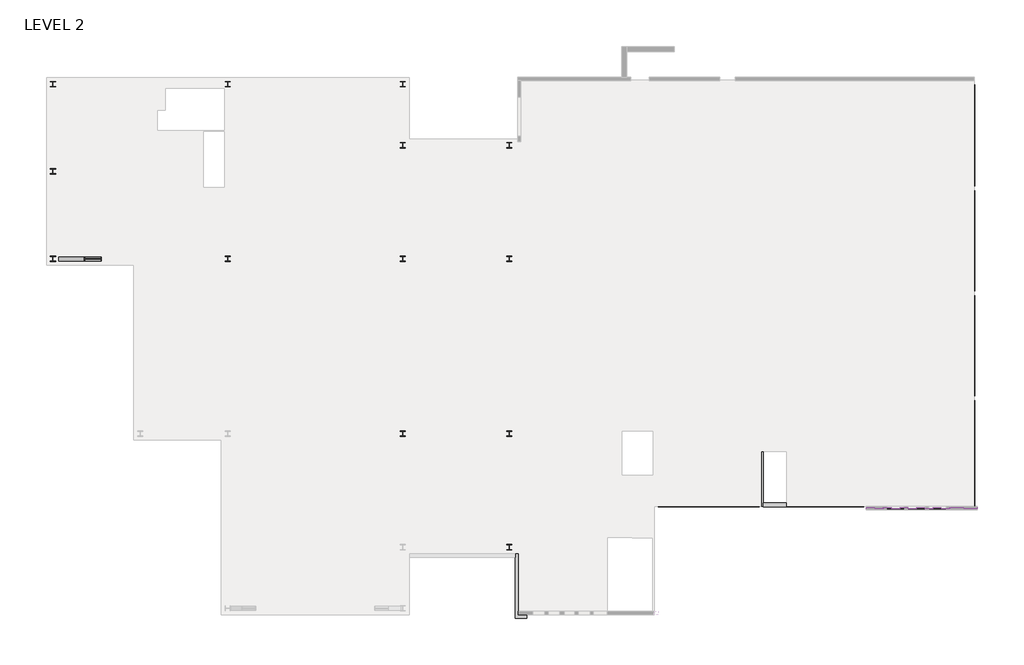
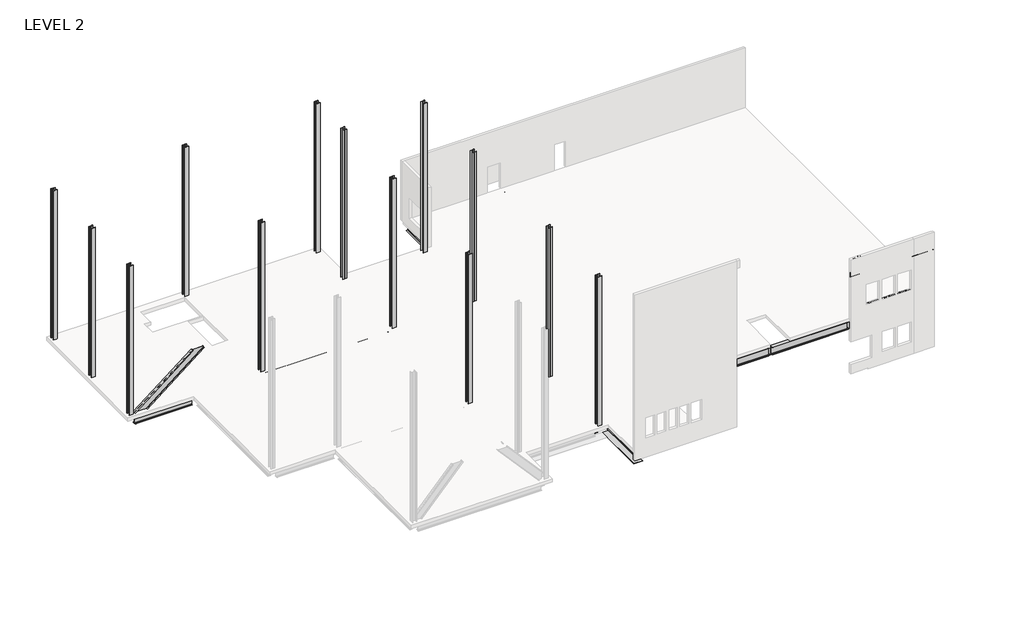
# One storey, part 2 of 2: 61 beams, 13 columns, 11 proxies.
"""IFC4 building model written with IfcOpenShell, lengths in millimetres."""

from ifc_helpers import new_model, si_unit, frame, origin, place, context, project, spatial, polyline, circle_curve, ellipse_curve, transform, mapped, element, save
from ifc_brep_helpers import plane_surface, revolved_surface, advanced_brep
from components import beams_w_wide_flange_w21x50_bdfe6965, l_angle_l6x4x1_2_f9bd59cc, beam_f273ec72, w_wide_flange_w24x68_78b43be5, w_wide_flange_w24x68_9b49338e, w_wide_flange_w24x68_f334fff9, w_wide_flange_w24x68_22df418c, w_wide_flange_w24x68_4a461c08, w_wide_flange_w24x68_5163ce4e, w_wide_flange_w24x68_d8fbc3e3, w_wide_flange_w24x68_f2fd009a, w_wide_flange_w24x68_bc0ab347, w_wide_flange_w24x68_358f6d4c, w_wide_flange_w24x68_59e872bf, w_wide_flange_w24x68_577b7746, w_wide_flange_w24x68_925eba65, w_wide_flange_w24x68_1f356fc1, w_wide_flange_w24x68_4326577b, w_wide_flange_w24x68_2037567b, w_wide_flange_w24x68_76057f53, w_wide_flange_w24x68_27c3fe05, w_wide_flange_w24x68_69e55ce7, w_wide_flange_w24x68_a7e4539d, w_wide_flange_w24x68_fb0ecac3, w_wide_flange_w24x68_2c67142f, w_wide_flange_w24x68_792546f8, w_wide_flange_w24x68_eee0bb9b, w_wide_flange_w24x68_46376fb1, generic_models_cae1357b, generic_models_13990884, generic_models_982b0e00, generic_models_3984bc5b, generic_models_8dd5a6fb, w_wide_flange_column_w12x65_dc519e1b

model = new_model("IFC4")

# Units and contexts
model_context = context("Model", 3, world=origin())
ifc_project = project(units=[si_unit("LENGTHUNIT", "METRE", prefix="MILLI")], contexts=[model_context])

# Site, building, storey
site = spatial("IfcSite", under=ifc_project)
building = spatial("IfcBuilding", under=site)
storey = spatial("IfcBuildingStorey", under=building, Name="LEVEL 2", Elevation=4267.2)

# Beams
placement = place(None, origin())
beams_w_wide_flange_w21x50_shape = beams_w_wide_flange_w21x50_bdfe6965(model_context)
element("IfcBeam", 1, ObjectType="Beams_W-Wide Flange : W21X50", at=placement, inside=storey, context=model_context, shape_type="MappedRepresentation", body=[
    mapped(beams_w_wide_flange_w21x50_shape, transform((8608.9507265, -13240.7476182, 3723.878125), x_axis=(0.0, 1.0, 0.0), y_axis=(-1.0, 0.0, 0.0), z_axis=(0.0, 0.0, 1.0))),
])
l_angle_l6x4x1_2_shape = l_angle_l6x4x1_2_f9bd59cc(model_context)
element("IfcBeam", 2, ObjectType="L-Angle : L6X4X1/2", at=placement, inside=storey, context=model_context, shape_type="MappedRepresentation", body=[
    mapped(l_angle_l6x4x1_2_shape, transform((34002.6007265, -10406.7624619, 3335.5160937), x_axis=(-1.0, 0.0, 0.0), y_axis=(0.0, -1.0, 0.0), z_axis=(0.0, 0.0, 1.0))),
])
element("IfcBeam", 3, ObjectType="L-Angle : L6X4X1/2", at=placement, inside=storey, context=model_context, shape_type="MappedRepresentation", body=[
    mapped(l_angle_l6x4x1_2_shape, transform((32773.8757265, -10406.7624619, 3335.5160937), x_axis=(-1.0, 0.0, 0.0), y_axis=(0.0, -1.0, 0.0), z_axis=(0.0, 0.0, 1.0))),
])
element("IfcBeam", 4, ObjectType="L-Angle : L6X4X1/2", at=placement, inside=storey, context=model_context, shape_type="MappedRepresentation", body=[
    mapped(l_angle_l6x4x1_2_shape, transform((31554.6757265, -10406.7624619, 3335.5160937), x_axis=(-1.0, 0.0, 0.0), y_axis=(0.0, -1.0, 0.0), z_axis=(0.0, 0.0, 1.0))),
])
element("IfcBeam", 5, ObjectType="L-Angle : L6X4X1/2", at=placement, inside=storey, context=model_context, shape_type="MappedRepresentation", body=[
    mapped(l_angle_l6x4x1_2_shape, transform((30335.4757265, -10406.7624619, 3335.5160937), x_axis=(-1.0, 0.0, 0.0), y_axis=(0.0, -1.0, 0.0), z_axis=(0.0, 0.0, 1.0))),
])
element("IfcBeam", 6, ObjectType="L-Angle : L6X4X1/2", at=placement, inside=storey, context=model_context, shape_type="MappedRepresentation", body=[
    mapped(l_angle_l6x4x1_2_shape, transform((29116.2757265, -10406.7624619, 3335.5160937), x_axis=(-1.0, 0.0, 0.0), y_axis=(0.0, -1.0, 0.0), z_axis=(0.0, 0.0, 1.0))),
])
beam_shape = beam_f273ec72(model_context)
element("IfcBeam", 7, ObjectType="Plate : 1/2X2'- 2 7/8\"", at=placement, inside=storey, context=model_context, shape_type="MappedRepresentation", body=[
    mapped(beam_shape, transform((8369.2382265, -14754.4291421, 3447.25625), x_axis=(0.0, 1.0000000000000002, 0.0), y_axis=(0.0, 0.0, -1.0000000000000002), z_axis=(-1.0000000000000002, 0.0, 0.0))),
])
element("IfcBeam", 8, ObjectType="W-Wide Flange : W24X68", at=placement, inside=storey, context=model_context, shape_type="AdvancedBrep", body=[
    advanced_brep(
    [(-13149.0630891, 4131.6776318, 7773.971608), (-13149.0630891, 4046.2701318, 7773.971608), (-13163.5261024, 4023.0291318, 7792.1640605), (-13187.1030858, 4023.0291318, 7821.8206154), (-13187.1030858, 4012.4881318, 7821.8206154), (-13163.5261024, 4012.4881318, 7792.1640605), (-13149.0630891, 3989.2471318, 7773.971608), (-13149.0630891, 3903.8396318, 7773.971608), (-13139.8162445, 3903.8396318, 7762.3403679), (-13139.8162445, 4131.6776318, 7762.3403679), (-18478.2481847, 4012.4881318, 4238.6440766), (-18492.7111981, 3989.2471318, 4256.836529), (-18492.7111981, 3903.8396318, 4256.836529), (-18501.9580427, 3903.8396318, 4268.4677691), (-18501.9580427, 4131.6776318, 4268.4677691), (-18492.7111981, 4131.6776318, 4256.836529), (-18492.7111981, 4046.2701318, 4256.836529), (-18478.2481847, 4023.0291318, 4238.6440766), (-18418.7559911, 4023.0291318, 4163.8111992), (-18418.7559911, 4012.4881318, 4163.8111992), (-17690.1410846, 4131.6776318, 4163.8111992), (-17690.1410846, 4046.2701318, 4163.8111992), (-17727.4876643, 4023.0291318, 4163.8111992), (-13971.1121321, 4023.0291318, 7821.8206154), (-14008.4587118, 4046.2701318, 7821.8206154), (-14008.4587118, 4131.6776318, 7821.8206154), (-14032.3360333, 4131.6776318, 7821.8206154), (-14032.3360333, 3903.8396318, 7821.8206154), (-14008.4587118, 3903.8396318, 7821.8206154), (-14008.4587118, 3989.2471318, 7821.8206154), (-13971.1121321, 4012.4881318, 7821.8206154), (-17727.4876643, 4012.4881318, 4163.8111992), (-17690.1410846, 3989.2471318, 4163.8111992), (-17690.1410846, 3903.8396318, 4163.8111992), (-17666.2637631, 3903.8396318, 4163.8111992), (-17666.2637631, 4131.6776318, 4163.8111992)],
    [
        (0, 1),
        (1, 2, circle_curve(frame((-13163.5261024, 4046.2701318, 7792.1640605), z_axis=(-0.7827740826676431, 0.0, -0.6223059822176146), x_axis=(0.0, -1.0000000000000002, 0.0)), 23.241)),
        (2, 3),
        (3, 4),
        (4, 5),
        (5, 6, circle_curve(frame((-13163.5261024, 3989.2471318, 7792.1640605), z_axis=(-0.7827740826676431, 0.0, -0.6223059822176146), x_axis=(0.0, -1.0000000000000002, 0.0)), 23.241)),
        (6, 7),
        (7, 8),
        (8, 9),
        (9, 0),
        (10, 11, circle_curve(frame((-18478.2481847, 3989.2471318, 4238.6440766), z_axis=(0.7827740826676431, 0.0, 0.6223059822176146), x_axis=(0.0, -1.0000000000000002, 0.0)), 23.241)),
        (11, 12),
        (12, 13),
        (13, 14),
        (14, 15),
        (15, 16),
        (16, 17, circle_curve(frame((-18478.2481847, 4046.2701318, 4238.6440766), z_axis=(0.7827740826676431, 0.0, 0.6223059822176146), x_axis=(0.0, -1.0000000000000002, 0.0)), 23.241)),
        (17, 18),
        (18, 19),
        (19, 10),
        (0, 20),
        (20, 21),
        (21, 1),
        (21, 22, ellipse_curve(frame((-17727.4876643, 4046.2701318, 4163.8111992), z_axis=(0.0, 0.0, -1.0), x_axis=(-1.0, 0.0, 0.0)), 37.3465798, 23.241)),
        (22, 2),
        (17, 23),
        (23, 3),
        (22, 18),
        (16, 24),
        (24, 23, ellipse_curve(frame((-13971.1121321, 4046.2701318, 7821.8206154), z_axis=(0.0, 0.0, 1.0), x_axis=(-1.0, 0.0, 0.0)), 37.3465798, 23.241)),
        (15, 25),
        (25, 24),
        (14, 26),
        (26, 25),
        (13, 27),
        (27, 26),
        (12, 28),
        (28, 27),
        (11, 29),
        (29, 28),
        (10, 30),
        (30, 29, ellipse_curve(frame((-13971.1121321, 3989.2471318, 7821.8206154), z_axis=(0.0, 0.0, 1.0), x_axis=(-1.0, 0.0, 0.0)), 37.3465798, 23.241)),
        (19, 31),
        (31, 5),
        (4, 30),
        (31, 32, ellipse_curve(frame((-17727.4876643, 3989.2471318, 4163.8111992), z_axis=(0.0, 0.0, -1.0), x_axis=(-1.0, 0.0, 0.0)), 37.3465798, 23.241)),
        (32, 6),
        (32, 33),
        (33, 7),
        (33, 34),
        (34, 8),
        (34, 35),
        (35, 9),
        (35, 20),
    ],
    [
        plane_surface(frame((-13327.1241221, 4017.7586318, 7997.9475391), z_axis=(0.7827740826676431, 0.0, 0.6223059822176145), x_axis=(-0.6223059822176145, 0.0, 0.7827740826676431))),
        plane_surface(frame((-18314.6501651, 4017.7586318, 4032.860598), z_axis=(-0.7827740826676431, 0.0, -0.6223059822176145), x_axis=(-0.6223059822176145, 0.0, 0.7827740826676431))),
        plane_surface(frame((-13149.0630891, 4131.6776318, 7773.971608), z_axis=(-0.6223059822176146, 0.0, 0.7827740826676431), x_axis=(-0.7827740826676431, 0.0, -0.6223059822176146))),
        revolved_surface(polyline([(-17750.371230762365, 4023.0291318, 4145.618746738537), (-13163.5261024, 4023.0291318, 7792.1640605)]), (-13163.5261024, 4046.2701318, 7792.1640605), (-0.7827740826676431, 0.0, -0.6223059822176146)),
        plane_surface(frame((-13163.5261024, 4023.0291318, 7792.1640605), z_axis=(0.0, 1.0000000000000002, 0.0), x_axis=(-0.7827740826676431, 0.0, -0.6223059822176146))),
        revolved_surface(polyline([(-18478.24818476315, 4023.0291318, 4238.64407653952), (-13948.228565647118, 4023.0291318, 7840.013067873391)]), (-13490.7221417, 4046.2701318, 8203.7310177), (-0.7827740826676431, 0.0, -0.6223059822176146)),
        plane_surface(frame((-13505.1851551, 4046.2701318, 8221.9234701), z_axis=(0.6223059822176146, 0.0, -0.7827740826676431), x_axis=(-0.7827740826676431, 0.0, -0.6223059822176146))),
        plane_surface(frame((-13505.1851551, 4131.6776318, 8221.9234701), z_axis=(0.0, 1.0000000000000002, 0.0), x_axis=(-0.7827740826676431, 0.0, -0.6223059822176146))),
        plane_surface(frame((-13514.4319997, 4131.6776318, 8233.5547102), z_axis=(-0.6223059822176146, 0.0, 0.7827740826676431), x_axis=(-0.7827740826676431, 0.0, -0.6223059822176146))),
        plane_surface(frame((-13514.4319997, 3903.8396318, 8233.5547102), z_axis=(0.0, -1.0000000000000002, 0.0), x_axis=(-0.7827740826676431, 0.0, -0.6223059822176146))),
        plane_surface(frame((-13505.1851551, 3903.8396318, 8221.9234701), z_axis=(0.6223059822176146, 0.0, -0.7827740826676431), x_axis=(-0.7827740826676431, 0.0, -0.6223059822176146))),
        revolved_surface(polyline([(-18478.24818476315, 3966.0061318, 4238.64407653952), (-13948.228565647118, 3966.0061318, 7840.013067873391)]), (-13490.7221417, 3989.2471318, 8203.7310177), (-0.7827740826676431, 0.0, -0.6223059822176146)),
        plane_surface(frame((-13490.7221417, 4012.4881318, 8203.7310177), z_axis=(0.0, -1.0000000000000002, 0.0), x_axis=(-0.7827740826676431, 0.0, -0.6223059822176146))),
        revolved_surface(polyline([(-17750.371230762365, 3966.0061318, 4145.618746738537), (-13163.5261024, 3966.0061318, 7792.1640605)]), (-13163.5261024, 3989.2471318, 7792.1640605), (-0.7827740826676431, 0.0, -0.6223059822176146)),
        plane_surface(frame((-13149.0630891, 3989.2471318, 7773.971608), z_axis=(-0.6223059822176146, 0.0, 0.7827740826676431), x_axis=(-0.7827740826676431, 0.0, -0.6223059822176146))),
        plane_surface(frame((-13149.0630891, 3903.8396318, 7773.971608), z_axis=(0.0, -1.0000000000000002, 0.0), x_axis=(-0.7827740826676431, 0.0, -0.6223059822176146))),
        plane_surface(frame((-13139.8162445, 3903.8396318, 7762.3403679), z_axis=(0.6223059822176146, 0.0, -0.7827740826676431), x_axis=(-0.7827740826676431, 0.0, -0.6223059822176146))),
        plane_surface(frame((-13139.8162445, 4131.6776318, 7762.3403679), z_axis=(0.0, 1.0000000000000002, 0.0), x_axis=(-0.7827740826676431, 0.0, -0.6223059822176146))),
        plane_surface(frame((-14103.2832831, -2764.0413682, 7821.8206154), z_axis=(0.0, 0.0, 1.0), x_axis=(0.0, 1.0, 0.0))),
        plane_surface(frame((-17267.6550994, -2764.0413682, 4163.8111992), z_axis=(0.0, 0.0, -1.0), x_axis=(0.0, 1.0, 0.0))),
    ],
    [
        (0, [[1, 2, 3, 4, 5, 6, 7, 8, 9, 10]]),
        (1, [[11, 12, 13, 14, 15, 16, 17, 18, 19, 20]]),
        (2, [[-1, 21, 22, 23]]),
        (3, [[-2, -23, 24, 25]]),
        (4, [[26, 27, -3, -25, 28, -18]]),
        (5, [[-17, 29, 30, -26]]),
        (6, [[-16, 31, 32, -29]]),
        (7, [[-15, 33, 34, -31]]),
        (8, [[-14, 35, 36, -33]]),
        (9, [[-13, 37, 38, -35]]),
        (10, [[-12, 39, 40, -37]]),
        (11, [[-11, 41, 42, -39]]),
        (12, [[-41, -20, 43, 44, -5, 45]]),
        (13, [[-6, -44, 46, 47]]),
        (14, [[-7, -47, 48, 49]]),
        (15, [[-8, -49, 50, 51]]),
        (16, [[-9, -51, 52, 53]]),
        (17, [[-10, -53, 54, -21]]),
        (18, [[-27, -30, -32, -34, -36, -38, -40, -42, -45, -4]]),
        (19, [[-19, -28, -24, -22, -54, -52, -50, -48, -46, -43]]),
    ],
),
])
w_wide_flange_w24x68_shape = w_wide_flange_w24x68_78b43be5(model_context)
element("IfcBeam", 9, ObjectType="W-Wide Flange : W24X68", at=placement, inside=storey, context=model_context, shape_type="MappedRepresentation", body=[
    mapped(w_wide_flange_w24x68_shape, transform((1496.9507265, -1062.2413682, 3686.81), x_axis=(0.0, 1.0, 0.0), y_axis=(-1.0, 0.0, 0.0), z_axis=(0.0, 0.0, 1.0))),
])
element("IfcBeam", 10, ObjectType="W-Wide Flange : W24X68", at=placement, inside=storey, context=model_context, shape_type="MappedRepresentation", body=[
    mapped(w_wide_flange_w24x68_shape, transform((-3583.0492735, 4017.7586318, 3686.81), x_axis=(1.0, 0.0, 0.0), y_axis=(0.0, 1.0, 0.0), z_axis=(0.0, 0.0, 1.0))),
])
element("IfcBeam", 11, ObjectType="W-Wide Flange : W24X68", at=placement, inside=storey, context=model_context, shape_type="MappedRepresentation", body=[
    mapped(w_wide_flange_w24x68_shape, transform((7694.5507265, -1062.2413682, 3686.81), x_axis=(0.0, 1.0, 0.0), y_axis=(-1.0, 0.0, 0.0), z_axis=(0.0, 0.0, 1.0))),
])
w_wide_flange_w24x68_2_shape = w_wide_flange_w24x68_9b49338e(model_context)
element("IfcBeam", 12, ObjectType="W-Wide Flange : W24X68", at=placement, inside=storey, context=model_context, shape_type="MappedRepresentation", body=[
    mapped(w_wide_flange_w24x68_2_shape, transform((-11203.0492735, 4017.7586318, 3686.81), x_axis=(1.0, 0.0, 0.0), y_axis=(0.0, 1.0, 0.0), z_axis=(0.0, 0.0, 1.0))),
])
w_wide_flange_w24x68_3_shape = w_wide_flange_w24x68_f334fff9(model_context)
element("IfcBeam", 13, ObjectType="W-Wide Flange : W24X68", at=placement, inside=storey, context=model_context, shape_type="MappedRepresentation", body=[
    mapped(w_wide_flange_w24x68_3_shape, transform((-16282.2785098, 4017.7586318, 3686.81), x_axis=(-1.0, 0.0, 0.0), y_axis=(0.0, -1.0, 0.0), z_axis=(0.0, 0.0, 1.0))),
])
w_wide_flange_w24x68_4_shape = w_wide_flange_w24x68_22df418c(model_context)
element("IfcBeam", 14, ObjectType="W-Wide Flange : W24X68", at=placement, inside=storey, context=model_context, shape_type="MappedRepresentation", body=[
    mapped(w_wide_flange_w24x68_4_shape, transform((8608.9507265, -1035.2538682, 3686.81), x_axis=(0.0, 1.0, 0.0), y_axis=(-1.0, 0.0, 0.0), z_axis=(0.0, 0.0, 1.0))),
])
element("IfcBeam", 15, ObjectType="W-Wide Flange : W24X68", at=placement, inside=storey, context=model_context, shape_type="MappedRepresentation", body=[
    mapped(w_wide_flange_w24x68_4_shape, transform((8608.9507265, 5060.7461318, 3686.81), x_axis=(0.0, 1.0, 0.0), y_axis=(-1.0, 0.0, 0.0), z_axis=(0.0, 0.0, 1.0))),
])
element("IfcBeam", 16, ObjectType="W-Wide Flange : W24X68", at=placement, inside=storey, context=model_context, shape_type="MappedRepresentation", body=[
    mapped(w_wide_flange_w24x68_4_shape, transform((16228.9507265, -1035.2538682, 3686.81), x_axis=(0.0, 1.0, 0.0), y_axis=(-1.0, 0.0, 0.0), z_axis=(0.0, 0.0, 1.0))),
])
element("IfcBeam", 17, ObjectType="W-Wide Flange : W24X68", at=placement, inside=storey, context=model_context, shape_type="MappedRepresentation", body=[
    mapped(w_wide_flange_w24x68_4_shape, transform((16228.9507265, 5060.7461318, 3686.81), x_axis=(0.0, 1.0, 0.0), y_axis=(-1.0, 0.0, 0.0), z_axis=(0.0, 0.0, 1.0))),
])
element("IfcBeam", 18, ObjectType="W-Wide Flange : W24X68", at=placement, inside=storey, context=model_context, shape_type="MappedRepresentation", body=[
    mapped(w_wide_flange_w24x68_4_shape, transform((22324.9507265, -1035.2538682, 3686.81), x_axis=(0.0, 1.0, 0.0), y_axis=(-1.0, 0.0, 0.0), z_axis=(0.0, 0.0, 1.0))),
])
element("IfcBeam", 19, ObjectType="W-Wide Flange : W24X68", at=placement, inside=storey, context=model_context, shape_type="MappedRepresentation", body=[
    mapped(w_wide_flange_w24x68_4_shape, transform((22324.9507265, 5060.7461318, 3686.81), x_axis=(0.0, 1.0, 0.0), y_axis=(-1.0, 0.0, 0.0), z_axis=(0.0, 0.0, 1.0))),
])
element("IfcBeam", 20, ObjectType="W-Wide Flange : W24X68", at=placement, inside=storey, context=model_context, shape_type="MappedRepresentation", body=[
    mapped(w_wide_flange_w24x68_4_shape, transform((28420.9507265, -1035.2538682, 3686.81), x_axis=(0.0, 1.0, 0.0), y_axis=(-1.0, 0.0, 0.0), z_axis=(0.0, 0.0, 1.0))),
])
element("IfcBeam", 21, ObjectType="W-Wide Flange : W24X68", at=placement, inside=storey, context=model_context, shape_type="MappedRepresentation", body=[
    mapped(w_wide_flange_w24x68_4_shape, transform((28420.9507265, 5060.7461318, 3686.81), x_axis=(0.0, 1.0, 0.0), y_axis=(-1.0, 0.0, 0.0), z_axis=(0.0, 0.0, 1.0))),
])
w_wide_flange_w24x68_5_shape = w_wide_flange_w24x68_4a461c08(model_context)
element("IfcBeam", 22, ObjectType="W-Wide Flange : W24X68", at=placement, inside=storey, context=model_context, shape_type="MappedRepresentation", body=[
    mapped(w_wide_flange_w24x68_5_shape, transform((12418.9507265, 8108.7461318, 3686.81), x_axis=(1.0, 0.0, 0.0), y_axis=(0.0, 1.0, 0.0), z_axis=(0.0, 0.0, 1.0))),
])
element("IfcBeam", 23, ObjectType="W-Wide Flange : W24X68", at=placement, inside=storey, context=model_context, shape_type="MappedRepresentation", body=[
    mapped(w_wide_flange_w24x68_5_shape, transform((12418.9507265, 2012.7461318, 3686.81), x_axis=(1.0, 0.0, 0.0), y_axis=(0.0, 1.0, 0.0), z_axis=(0.0, 0.0, 1.0))),
])
element("IfcBeam", 24, ObjectType="W-Wide Flange : W24X68", at=placement, inside=storey, context=model_context, shape_type="MappedRepresentation", body=[
    mapped(w_wide_flange_w24x68_5_shape, transform((12418.9507265, -4083.2538682, 3686.81), x_axis=(1.0, 0.0, 0.0), y_axis=(0.0, 1.0, 0.0), z_axis=(0.0, 0.0, 1.0))),
])
w_wide_flange_w24x68_6_shape = w_wide_flange_w24x68_5163ce4e(model_context)
element("IfcBeam", 25, ObjectType="W-Wide Flange : W24X68", at=placement, inside=storey, context=model_context, shape_type="MappedRepresentation", body=[
    mapped(w_wide_flange_w24x68_6_shape, transform((25372.9507265, 8108.7461318, 3686.81), x_axis=(1.0, 0.0, 0.0), y_axis=(0.0, 1.0, 0.0), z_axis=(0.0, 0.0, 1.0))),
])
element("IfcBeam", 26, ObjectType="W-Wide Flange : W24X68", at=placement, inside=storey, context=model_context, shape_type="MappedRepresentation", body=[
    mapped(w_wide_flange_w24x68_6_shape, transform((25372.9507265, 2012.7461318, 3686.81), x_axis=(1.0, 0.0, 0.0), y_axis=(0.0, 1.0, 0.0), z_axis=(0.0, 0.0, 1.0))),
])
element("IfcBeam", 27, ObjectType="W-Wide Flange : W24X68", at=placement, inside=storey, context=model_context, shape_type="MappedRepresentation", body=[
    mapped(w_wide_flange_w24x68_6_shape, transform((25372.9507265, -4083.2538682, 3686.81), x_axis=(1.0, 0.0, 0.0), y_axis=(0.0, 1.0, 0.0), z_axis=(0.0, 0.0, 1.0))),
])
w_wide_flange_w24x68_7_shape = w_wide_flange_w24x68_d8fbc3e3(model_context)
element("IfcBeam", 28, ObjectType="W-Wide Flange : W24X68", at=placement, inside=storey, context=model_context, shape_type="MappedRepresentation", body=[
    mapped(w_wide_flange_w24x68_7_shape, transform((1496.9507265, 7319.7586318, 3686.81), x_axis=(0.0, -1.0, 0.0), y_axis=(1.0, 0.0, 0.0), z_axis=(0.0, 0.0, 1.0))),
])
element("IfcBeam", 29, ObjectType="W-Wide Flange : W24X68", at=placement, inside=storey, context=model_context, shape_type="MappedRepresentation", body=[
    mapped(w_wide_flange_w24x68_7_shape, transform((7694.5507265, -9444.2413682, 3686.81), x_axis=(0.0, 1.0, 0.0), y_axis=(-1.0, 0.0, 0.0), z_axis=(0.0, 0.0, 1.0))),
])
element("IfcBeam", 30, ObjectType="W-Wide Flange : W24X68", at=placement, inside=storey, context=model_context, shape_type="MappedRepresentation", body=[
    mapped(w_wide_flange_w24x68_7_shape, transform((7694.5507265, 7319.7586318, 3686.81), x_axis=(0.0, 1.0, 0.0), y_axis=(-1.0, 0.0, 0.0), z_axis=(0.0, 0.0, 1.0))),
])
element("IfcBeam", 31, ObjectType="W-Wide Flange : W24X68", at=placement, inside=storey, context=model_context, shape_type="MappedRepresentation", body=[
    mapped(w_wide_flange_w24x68_7_shape, transform((1496.9507265, -9444.2413682, 3686.81), x_axis=(0.0, 1.0, 0.0), y_axis=(-1.0, 0.0, 0.0), z_axis=(0.0, 0.0, 1.0))),
])
w_wide_flange_w24x68_8_shape = w_wide_flange_w24x68_f2fd009a(model_context)
element("IfcBeam", 32, ObjectType="W-Wide Flange : W24X68", at=placement, inside=storey, context=model_context, shape_type="MappedRepresentation", body=[
    mapped(w_wide_flange_w24x68_8_shape, transform((1496.9507265, 12399.7586318, 3686.81), x_axis=(0.0, -1.0, 0.0), y_axis=(1.0, 0.0, 0.0), z_axis=(0.0, 0.0, 1.0))),
])
w_wide_flange_w24x68_9_shape = w_wide_flange_w24x68_bc0ab347(model_context)
element("IfcBeam", 33, ObjectType="W-Wide Flange : W24X68", at=placement, inside=storey, context=model_context, shape_type="MappedRepresentation", body=[
    mapped(w_wide_flange_w24x68_9_shape, transform((19276.9507265, 8108.7461318, 3686.81), x_axis=(-1.0, 0.0, 0.0), y_axis=(0.0, -1.0, 0.0), z_axis=(0.0, 0.0, 1.0))),
])
element("IfcBeam", 34, ObjectType="W-Wide Flange : W24X68", at=placement, inside=storey, context=model_context, shape_type="MappedRepresentation", body=[
    mapped(w_wide_flange_w24x68_9_shape, transform((19276.9507265, 2012.7461318, 3686.81), x_axis=(-1.0, 0.0, 0.0), y_axis=(0.0, -1.0, 0.0), z_axis=(0.0, 0.0, 1.0))),
])
element("IfcBeam", 35, ObjectType="W-Wide Flange : W24X68", at=placement, inside=storey, context=model_context, shape_type="MappedRepresentation", body=[
    mapped(w_wide_flange_w24x68_9_shape, transform((19276.9507265, -4083.2538682, 3686.81), x_axis=(-1.0, 0.0, 0.0), y_axis=(0.0, -1.0, 0.0), z_axis=(0.0, 0.0, 1.0))),
])
w_wide_flange_w24x68_10_shape = w_wide_flange_w24x68_358f6d4c(model_context)
element("IfcBeam", 36, ObjectType="W-Wide Flange : W24X68", at=placement, inside=storey, context=model_context, shape_type="MappedRepresentation", body=[
    mapped(w_wide_flange_w24x68_10_shape, transform((4595.7507265, -6142.2413682, 3686.81), x_axis=(1.0, 0.0, 0.0), y_axis=(0.0, 1.0, 0.0), z_axis=(0.0, 0.0, 1.0))),
])
element("IfcBeam", 37, ObjectType="W-Wide Flange : W24X68", at=placement, inside=storey, context=model_context, shape_type="MappedRepresentation", body=[
    mapped(w_wide_flange_w24x68_10_shape, transform((4595.7507265, 4017.7586318, 3686.81), x_axis=(1.0, 0.0, 0.0), y_axis=(0.0, 1.0, 0.0), z_axis=(0.0, 0.0, 1.0))),
])
element("IfcBeam", 38, ObjectType="W-Wide Flange : W24X68", at=placement, inside=storey, context=model_context, shape_type="MappedRepresentation", body=[
    mapped(w_wide_flange_w24x68_10_shape, transform((4595.7507265, 10621.7586318, 3686.81), x_axis=(1.0, 0.0, 0.0), y_axis=(0.0, 1.0, 0.0), z_axis=(0.0, 0.0, 1.0))),
])
w_wide_flange_w24x68_11_shape = w_wide_flange_w24x68_59e872bf(model_context)
element("IfcBeam", 39, ObjectType="W-Wide Flange : W24X68", at=placement, inside=storey, context=model_context, shape_type="MappedRepresentation", body=[
    mapped(w_wide_flange_w24x68_11_shape, transform((8608.9507265, -7131.2538682, 3686.81), x_axis=(0.0, 1.0, 0.0), y_axis=(-1.0, 0.0, 0.0), z_axis=(0.0, 0.0, 1.0))),
])
w_wide_flange_w24x68_12_shape = w_wide_flange_w24x68_577b7746(model_context)
element("IfcBeam", 40, ObjectType="W-Wide Flange : W24X68", at=placement, inside=storey, context=model_context, shape_type="MappedRepresentation", body=[
    mapped(w_wide_flange_w24x68_12_shape, transform((12418.9507265, 14263.4836318, 3686.81), x_axis=(1.0, 0.0, 0.0), y_axis=(0.0, 1.0, 0.0), z_axis=(0.0, 0.0, 1.0))),
])
w_wide_flange_w24x68_13_shape = w_wide_flange_w24x68_925eba65(model_context)
element("IfcBeam", 41, ObjectType="W-Wide Flange : W24X68", at=placement, inside=storey, context=model_context, shape_type="MappedRepresentation", body=[
    mapped(w_wide_flange_w24x68_13_shape, transform((19276.9507265, 14263.4836318, 3686.81), x_axis=(-1.0, 0.0, 0.0), y_axis=(0.0, -1.0, 0.0), z_axis=(0.0, 0.0, 1.0))),
])
element("IfcBeam", 42, ObjectType="W-Wide Flange : W24X68", at=placement, inside=storey, context=model_context, shape_type="MappedRepresentation", body=[
    mapped(w_wide_flange_w24x68_13_shape, transform((19276.9507265, -10291.9663682, 3686.81), x_axis=(-1.0, 0.0, 0.0), y_axis=(0.0, -1.0, 0.0), z_axis=(0.0, 0.0, 1.0))),
])
w_wide_flange_w24x68_14_shape = w_wide_flange_w24x68_1f356fc1(model_context)
element("IfcBeam", 43, ObjectType="W-Wide Flange : W24X68", at=placement, inside=storey, context=model_context, shape_type="MappedRepresentation", body=[
    mapped(w_wide_flange_w24x68_14_shape, transform((25372.9507265, 14263.4836318, 3686.81), x_axis=(1.0, 0.0, 0.0), y_axis=(0.0, 1.0, 0.0), z_axis=(0.0, 0.0, 1.0))),
])
element("IfcBeam", 44, ObjectType="W-Wide Flange : W24X68", at=placement, inside=storey, context=model_context, shape_type="MappedRepresentation", body=[
    mapped(w_wide_flange_w24x68_14_shape, transform((34602.8793613, -1035.2538682, 3686.81), x_axis=(0.0, 1.0, 0.0), y_axis=(-1.0, 0.0, 0.0), z_axis=(0.0, 0.0, 1.0))),
])
element("IfcBeam", 45, ObjectType="W-Wide Flange : W24X68", at=placement, inside=storey, context=model_context, shape_type="MappedRepresentation", body=[
    mapped(w_wide_flange_w24x68_14_shape, transform((34602.8793613, 5060.7461318, 3686.81), x_axis=(0.0, 1.0, 0.0), y_axis=(-1.0, 0.0, 0.0), z_axis=(0.0, 0.0, 1.0))),
])
w_wide_flange_w24x68_15_shape = w_wide_flange_w24x68_4326577b(model_context)
element("IfcBeam", 46, ObjectType="W-Wide Flange : W24X68", at=placement, inside=storey, context=model_context, shape_type="MappedRepresentation", body=[
    mapped(w_wide_flange_w24x68_15_shape, transform((31511.9150439, 14263.4836318, 3686.81), x_axis=(-1.0, 0.0, 0.0), y_axis=(0.0, -1.0, 0.0), z_axis=(0.0, 0.0, 1.0))),
])
w_wide_flange_w24x68_16_shape = w_wide_flange_w24x68_2037567b(model_context)
element("IfcBeam", 47, ObjectType="W-Wide Flange : W24X68", at=placement, inside=storey, context=model_context, shape_type="MappedRepresentation", body=[
    mapped(w_wide_flange_w24x68_16_shape, transform((12418.9507265, -10179.2538682, 3686.81), x_axis=(1.0, 0.0, 0.0), y_axis=(0.0, 1.0, 0.0), z_axis=(0.0, 0.0, 1.0))),
])
w_wide_flange_w24x68_17_shape = w_wide_flange_w24x68_76057f53(model_context)
element("IfcBeam", 48, ObjectType="W-Wide Flange : W24X68", at=placement, inside=storey, context=model_context, shape_type="MappedRepresentation", body=[
    mapped(w_wide_flange_w24x68_17_shape, transform((31511.8132265, -10291.9663682, 3686.81), x_axis=(-1.0, 0.0, 0.0), y_axis=(0.0, -1.0, 0.0), z_axis=(0.0, 0.0, 1.0))),
])
w_wide_flange_w24x68_18_shape = w_wide_flange_w24x68_27c3fe05(model_context)
element("IfcBeam", 49, ObjectType="W-Wide Flange : W24X68", at=placement, inside=storey, context=model_context, shape_type="MappedRepresentation", body=[
    mapped(w_wide_flange_w24x68_18_shape, transform((34602.8793613, 11186.1148818, 3686.81), x_axis=(0.0, 1.0, 0.0), y_axis=(-1.0, 0.0, 0.0), z_axis=(0.0, 0.0, 1.0))),
])
w_wide_flange_w24x68_19_shape = w_wide_flange_w24x68_69e55ce7(model_context)
element("IfcBeam", 50, ObjectType="W-Wide Flange : W24X68", at=placement, inside=storey, context=model_context, shape_type="MappedRepresentation", body=[
    mapped(w_wide_flange_w24x68_19_shape, transform((25372.8489091, -10291.9663682, 3686.81), x_axis=(-1.0, 0.0, 0.0), y_axis=(0.0, -1.0, 0.0), z_axis=(0.0, 0.0, 1.0))),
])
w_wide_flange_w24x68_20_shape = w_wide_flange_w24x68_a7e4539d(model_context)
element("IfcBeam", 51, ObjectType="W-Wide Flange : W24X68", at=placement, inside=storey, context=model_context, shape_type="MappedRepresentation", body=[
    mapped(w_wide_flange_w24x68_20_shape, transform((28420.7470917, -7280.4788682, 3686.81), x_axis=(0.0, 1.0, 0.0), y_axis=(-1.0, 0.0, 0.0), z_axis=(0.0, 0.0, 1.0))),
])
element("IfcBeam", 52, ObjectType="W-Wide Flange : W24X68", at=placement, inside=storey, context=model_context, shape_type="MappedRepresentation", body=[
    mapped(w_wide_flange_w24x68_20_shape, transform((22324.9507265, -7280.4788682, 3686.81), x_axis=(0.0, 1.0, 0.0), y_axis=(-1.0, 0.0, 0.0), z_axis=(0.0, 0.0, 1.0))),
])
w_wide_flange_w24x68_21_shape = w_wide_flange_w24x68_fb0ecac3(model_context)
element("IfcBeam", 53, ObjectType="W-Wide Flange : W24X68", at=placement, inside=storey, context=model_context, shape_type="MappedRepresentation", body=[
    mapped(w_wide_flange_w24x68_21_shape, transform((31604.7837939, 8108.7461318, 3686.81), x_axis=(-1.0, 0.0, 0.0), y_axis=(0.0, -1.0, 0.0), z_axis=(0.0, 0.0, 1.0))),
])
element("IfcBeam", 54, ObjectType="W-Wide Flange : W24X68", at=placement, inside=storey, context=model_context, shape_type="MappedRepresentation", body=[
    mapped(w_wide_flange_w24x68_21_shape, transform((31604.7837939, 2012.7461318, 3686.81), x_axis=(-1.0, 0.0, 0.0), y_axis=(0.0, -1.0, 0.0), z_axis=(0.0, 0.0, 1.0))),
])
element("IfcBeam", 55, ObjectType="W-Wide Flange : W24X68", at=placement, inside=storey, context=model_context, shape_type="MappedRepresentation", body=[
    mapped(w_wide_flange_w24x68_21_shape, transform((31604.7837939, -4083.2538682, 3686.81), x_axis=(-1.0, 0.0, 0.0), y_axis=(0.0, -1.0, 0.0), z_axis=(0.0, 0.0, 1.0))),
])
w_wide_flange_w24x68_22_shape = w_wide_flange_w24x68_2c67142f(model_context)
element("IfcBeam", 56, ObjectType="W-Wide Flange : W24X68", at=placement, inside=storey, context=model_context, shape_type="MappedRepresentation", body=[
    mapped(w_wide_flange_w24x68_22_shape, transform((16228.9507265, -7463.8351182, 3686.81), x_axis=(0.0, 1.0, 0.0), y_axis=(-1.0, 0.0, 0.0), z_axis=(0.0, 0.0, 1.0))),
])
w_wide_flange_w24x68_23_shape = w_wide_flange_w24x68_792546f8(model_context)
element("IfcBeam", 57, ObjectType="W-Wide Flange : W24X68", at=placement, inside=storey, context=model_context, shape_type="MappedRepresentation", body=[
    mapped(w_wide_flange_w24x68_23_shape, transform((34602.8793613, -7280.4788682, 3686.81), x_axis=(0.0, 1.0, 0.0), y_axis=(-1.0, 0.0, 0.0), z_axis=(0.0, 0.0, 1.0))),
])
w_wide_flange_w24x68_24_shape = w_wide_flange_w24x68_eee0bb9b(model_context)
element("IfcBeam", 58, ObjectType="W-Wide Flange : W24X68", at=placement, inside=storey, context=model_context, shape_type="MappedRepresentation", body=[
    mapped(w_wide_flange_w24x68_24_shape, transform((8608.9507265, 11392.4898818, 3686.81), x_axis=(0.0, 1.0, 0.0), y_axis=(-1.0, 0.0, 0.0), z_axis=(0.0, 0.0, 1.0))),
])
w_wide_flange_w24x68_25_shape = w_wide_flange_w24x68_46376fb1(model_context)
element("IfcBeam", 59, ObjectType="W-Wide Flange : W24X68", at=placement, inside=storey, context=model_context, shape_type="MappedRepresentation", body=[
    mapped(w_wide_flange_w24x68_25_shape, transform((16228.9507265, 11293.2711318, 3686.81), x_axis=(0.0, 1.0, 0.0), y_axis=(-1.0, 0.0, 0.0), z_axis=(0.0, 0.0, 1.0))),
])
element("IfcBeam", 60, ObjectType="W-Wide Flange : W24X68", at=placement, inside=storey, context=model_context, shape_type="MappedRepresentation", body=[
    mapped(w_wide_flange_w24x68_25_shape, transform((22324.9507265, 11293.2711318, 3686.81), x_axis=(0.0, 1.0, 0.0), y_axis=(-1.0, 0.0, 0.0), z_axis=(0.0, 0.0, 1.0))),
])
element("IfcBeam", 61, ObjectType="W-Wide Flange : W24X68", at=placement, inside=storey, context=model_context, shape_type="MappedRepresentation", body=[
    mapped(w_wide_flange_w24x68_25_shape, transform((28420.9507265, 11293.2711318, 3686.81), x_axis=(0.0, 1.0, 0.0), y_axis=(-1.0, 0.0, 0.0), z_axis=(0.0, 0.0, 1.0))),
])

# Proxies
generic_models_shape = generic_models_cae1357b(model_context)
element("IfcBuildingElementProxy", 62, Name="GROUTED CMU CELLS_horizontal : GROUTED CMU CELLS_horizontal", ObjectType="GROUTED CMU CELLS_horizontal : GROUTED CMU CELLS_horizontal", at=placement, inside=storey, context=model_context, shape_type="MappedRepresentation", body=[
    mapped(generic_models_shape, transform((33259.6507265, -10477.7038682, 4997.45), x_axis=(-1.0, 0.0, 0.0), y_axis=(0.0, -1.0, 0.0), z_axis=(0.0, 0.0, 1.0))),
])
element("IfcBuildingElementProxy", 63, Name="GROUTED CMU CELLS_horizontal : GROUTED CMU CELLS_horizontal", ObjectType="GROUTED CMU CELLS_horizontal : GROUTED CMU CELLS_horizontal", at=placement, inside=storey, context=model_context, shape_type="MappedRepresentation", body=[
    mapped(generic_models_shape, transform((33259.6507265, -10477.7038682, 6826.25), x_axis=(-1.0, 0.0, 0.0), y_axis=(0.0, -1.0, 0.0), z_axis=(0.0, 0.0, 1.0))),
])
generic_models_2_shape = generic_models_13990884(model_context)
element("IfcBuildingElementProxy", 64, Name="GROUTED CMU CELLS_horizontal : GROUTED CMU CELLS_horizontal", ObjectType="GROUTED CMU CELLS_horizontal : GROUTED CMU CELLS_horizontal", at=placement, inside=storey, context=model_context, shape_type="MappedRepresentation", body=[
    mapped(generic_models_2_shape, transform((33272.3507265, -10477.7038682, 7886.7), x_axis=(-1.0, 0.0, 0.0), y_axis=(0.0, -1.0, 0.0), z_axis=(0.0, 0.0, 1.0))),
])
generic_models_3_shape = generic_models_982b0e00(model_context)
element("IfcBuildingElementProxy", 65, Name="GROUTED CMU CELLS_horizontal : GROUTED CMU CELLS_horizontal", ObjectType="GROUTED CMU CELLS_horizontal : GROUTED CMU CELLS_horizontal", at=placement, inside=storey, context=model_context, shape_type="MappedRepresentation", body=[
    mapped(generic_models_3_shape, transform((34864.8168613, -10477.7038682, 7886.7), x_axis=(-1.0, 0.0, 0.0), y_axis=(0.0, -1.0, 0.0), z_axis=(0.0, 0.0, 1.0))),
])
generic_models_4_shape = generic_models_3984bc5b(model_context)
element("IfcBuildingElementProxy", 66, Name="GROUTED CMU CELLS : GROUTED CMU CELLS", ObjectType="GROUTED CMU CELLS : GROUTED CMU CELLS", at=placement, inside=storey, context=model_context, shape_type="MappedRepresentation", body=[
    mapped(generic_models_4_shape, transform((29929.0757265, -10477.7038682, 2476.5), x_axis=(1.0, 0.0, 0.0), y_axis=(0.0, 1.0, 0.0), z_axis=(0.0, 0.0, 1.0))),
])
element("IfcBuildingElementProxy", 67, Name="GROUTED CMU CELLS : GROUTED CMU CELLS", ObjectType="GROUTED CMU CELLS : GROUTED CMU CELLS", at=placement, inside=storey, context=model_context, shape_type="MappedRepresentation", body=[
    mapped(generic_models_4_shape, transform((31148.2757265, -10477.7038682, 2476.5), x_axis=(1.0, 0.0, 0.0), y_axis=(0.0, 1.0, 0.0), z_axis=(0.0, 0.0, 1.0))),
])
element("IfcBuildingElementProxy", 68, Name="GROUTED CMU CELLS : GROUTED CMU CELLS", ObjectType="GROUTED CMU CELLS : GROUTED CMU CELLS", at=placement, inside=storey, context=model_context, shape_type="MappedRepresentation", body=[
    mapped(generic_models_4_shape, transform((31554.6757265, -10477.7038682, 2476.5), x_axis=(1.0, 0.0, 0.0), y_axis=(0.0, 1.0, 0.0), z_axis=(0.0, 0.0, 1.0))),
])
element("IfcBuildingElementProxy", 69, Name="GROUTED CMU CELLS : GROUTED CMU CELLS", ObjectType="GROUTED CMU CELLS : GROUTED CMU CELLS", at=placement, inside=storey, context=model_context, shape_type="MappedRepresentation", body=[
    mapped(generic_models_4_shape, transform((32367.4757265, -10477.7038682, 2476.5), x_axis=(1.0, 0.0, 0.0), y_axis=(0.0, 1.0, 0.0), z_axis=(0.0, 0.0, 1.0))),
])
element("IfcBuildingElementProxy", 70, Name="GROUTED CMU CELLS : GROUTED CMU CELLS", ObjectType="GROUTED CMU CELLS : GROUTED CMU CELLS", at=placement, inside=storey, context=model_context, shape_type="MappedRepresentation", body=[
    mapped(generic_models_4_shape, transform((32773.8757265, -10477.7038682, 2476.5), x_axis=(1.0, 0.0, 0.0), y_axis=(0.0, 1.0, 0.0), z_axis=(0.0, 0.0, 1.0))),
])
generic_models_5_shape = generic_models_8dd5a6fb(model_context)
element("IfcBuildingElementProxy", 71, Name="GROUTED CMU CELLS : GROUTED CMU CELLS", ObjectType="GROUTED CMU CELLS : GROUTED CMU CELLS", at=placement, inside=storey, context=model_context, shape_type="MappedRepresentation", body=[
    mapped(generic_models_5_shape, transform((28709.8757265, -10477.7038682, 2476.5), x_axis=(1.0, 0.0, 0.0), y_axis=(0.0, 1.0, 0.0), z_axis=(0.0, 0.0, 1.0))),
])
element("IfcBuildingElementProxy", 72, Name="GROUTED CMU CELLS : GROUTED CMU CELLS", ObjectType="GROUTED CMU CELLS : GROUTED CMU CELLS", at=placement, inside=storey, context=model_context, shape_type="MappedRepresentation", body=[
    mapped(generic_models_5_shape, transform((29116.2757265, -10477.7038682, 2476.5), x_axis=(1.0, 0.0, 0.0), y_axis=(0.0, 1.0, 0.0), z_axis=(0.0, 0.0, 1.0))),
])

# Columns
w_wide_flange_column_w12x65_shape = w_wide_flange_column_w12x65_dc519e1b(model_context)
element("IfcColumn", 73, ObjectType="W-Wide Flange-Column : W12X65", at=placement, inside=storey, context=model_context, shape_type="MappedRepresentation", body=[
    mapped(w_wide_flange_column_w12x65_shape, transform((-18823.0492735, 4017.7586318, 0.0), x_axis=(1.0, 0.0, 0.0), y_axis=(0.0, 1.0, 0.0), z_axis=(0.0, 0.0, 1.0))),
])
element("IfcColumn", 74, ObjectType="W-Wide Flange-Column : W12X65", at=placement, inside=storey, context=model_context, shape_type="MappedRepresentation", body=[
    mapped(w_wide_flange_column_w12x65_shape, transform((-18823.0492735, 9097.7586318, 0.0), x_axis=(1.0, 0.0, 0.0), y_axis=(0.0, 1.0, 0.0), z_axis=(0.0, 0.0, 1.0))),
])
element("IfcColumn", 75, ObjectType="W-Wide Flange-Column : W12X65", at=placement, inside=storey, context=model_context, shape_type="MappedRepresentation", body=[
    mapped(w_wide_flange_column_w12x65_shape, transform((-18823.0492735, 14177.7586318, 0.0), x_axis=(1.0, 0.0, 0.0), y_axis=(0.0, 1.0, 0.0), z_axis=(0.0, 0.0, 1.0))),
])
element("IfcColumn", 76, ObjectType="W-Wide Flange-Column : W12X65", at=placement, inside=storey, context=model_context, shape_type="MappedRepresentation", body=[
    mapped(w_wide_flange_column_w12x65_shape, transform((7694.5507265, -12746.2413682, 0.0), x_axis=(1.0, 0.0, 0.0), y_axis=(0.0, 1.0, 0.0), z_axis=(0.0, 0.0, 1.0))),
])
element("IfcColumn", 77, ObjectType="W-Wide Flange-Column : W12X65", at=placement, inside=storey, context=model_context, shape_type="MappedRepresentation", body=[
    mapped(w_wide_flange_column_w12x65_shape, transform((-8663.0492735, 14177.7586318, 0.0), x_axis=(1.0, 0.0, 0.0), y_axis=(0.0, 1.0, 0.0), z_axis=(0.0, 0.0, 1.0))),
])
element("IfcColumn", 78, ObjectType="W-Wide Flange-Column : W12X65", at=placement, inside=storey, context=model_context, shape_type="MappedRepresentation", body=[
    mapped(w_wide_flange_column_w12x65_shape, transform((1496.9507265, 14177.7586318, 0.0), x_axis=(1.0, 0.0, 0.0), y_axis=(0.0, 1.0, 0.0), z_axis=(0.0, 0.0, 1.0))),
])
element("IfcColumn", 79, ObjectType="W-Wide Flange-Column : W12X65", at=placement, inside=storey, context=model_context, shape_type="MappedRepresentation", body=[
    mapped(w_wide_flange_column_w12x65_shape, transform((1496.9507265, 10621.7586318, 0.0), x_axis=(1.0, 0.0, 0.0), y_axis=(0.0, 1.0, 0.0), z_axis=(0.0, 0.0, 1.0))),
])
element("IfcColumn", 80, ObjectType="W-Wide Flange-Column : W12X65", at=placement, inside=storey, context=model_context, shape_type="MappedRepresentation", body=[
    mapped(w_wide_flange_column_w12x65_shape, transform((7694.5507265, 10621.7586318, 0.0), x_axis=(1.0, 0.0, 0.0), y_axis=(0.0, 1.0, 0.0), z_axis=(0.0, 0.0, 1.0))),
])
element("IfcColumn", 81, ObjectType="W-Wide Flange-Column : W12X65", at=placement, inside=storey, context=model_context, shape_type="MappedRepresentation", body=[
    mapped(w_wide_flange_column_w12x65_shape, transform((-8663.0492735, 4017.7586318, 0.0), x_axis=(1.0, 0.0, 0.0), y_axis=(0.0, 1.0, 0.0), z_axis=(0.0, 0.0, 1.0))),
])
element("IfcColumn", 82, ObjectType="W-Wide Flange-Column : W12X65", at=placement, inside=storey, context=model_context, shape_type="MappedRepresentation", body=[
    mapped(w_wide_flange_column_w12x65_shape, transform((1496.9507265, 4017.7586318, 0.0), x_axis=(1.0, 0.0, 0.0), y_axis=(0.0, 1.0, 0.0), z_axis=(0.0, 0.0, 1.0))),
])
element("IfcColumn", 83, ObjectType="W-Wide Flange-Column : W12X65", at=placement, inside=storey, context=model_context, shape_type="MappedRepresentation", body=[
    mapped(w_wide_flange_column_w12x65_shape, transform((1496.9507265, -6142.2413682, 0.0), x_axis=(1.0, 0.0, 0.0), y_axis=(0.0, 1.0, 0.0), z_axis=(0.0, 0.0, 1.0))),
])
element("IfcColumn", 84, ObjectType="W-Wide Flange-Column : W12X65", at=placement, inside=storey, context=model_context, shape_type="MappedRepresentation", body=[
    mapped(w_wide_flange_column_w12x65_shape, transform((7694.5507265, -6142.2413682, 0.0), x_axis=(1.0, 0.0, 0.0), y_axis=(0.0, 1.0, 0.0), z_axis=(0.0, 0.0, 1.0))),
])
element("IfcColumn", 85, ObjectType="W-Wide Flange-Column : W12X65", at=placement, inside=storey, context=model_context, shape_type="MappedRepresentation", body=[
    mapped(w_wide_flange_column_w12x65_shape, transform((7694.5507265, 4017.7586318, 0.0), x_axis=(1.0, 0.0, 0.0), y_axis=(0.0, 1.0, 0.0), z_axis=(0.0, 0.0, 1.0))),
])

save(model, "model.ifc")
